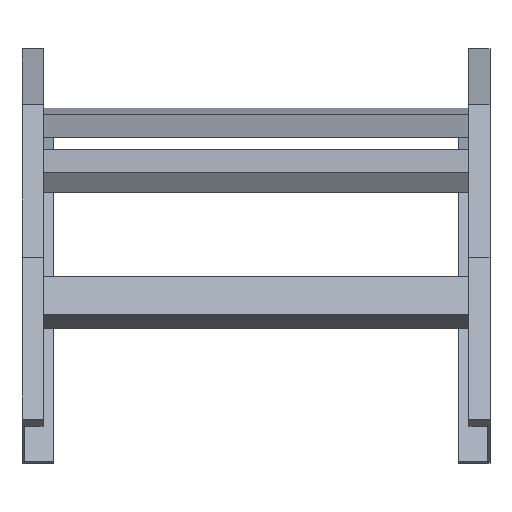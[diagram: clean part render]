
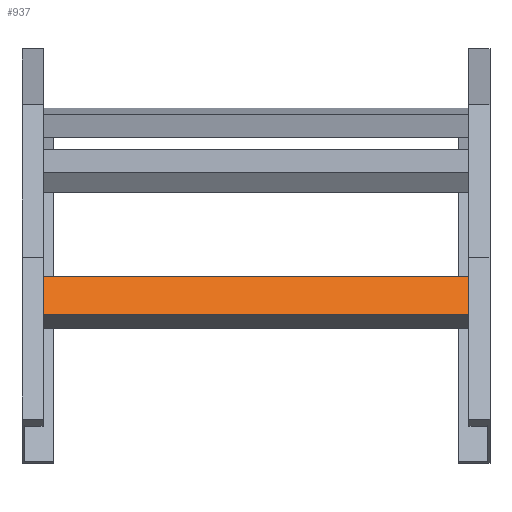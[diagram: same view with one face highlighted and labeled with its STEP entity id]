
A CAD part, top view. The second image highlights one B-rep face of the part: STEP entity #937.
In plain terms, the highlighted planar face has unit normal (0, 0.609, 0.793) as drawn and (0, 1, 0) by its records, which use the part's own axes.
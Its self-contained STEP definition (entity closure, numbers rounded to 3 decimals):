
#40 = ORIENTED_EDGE ( 'NONE', *, *, #178, .F. ) ;
#44 = LINE ( 'NONE', #972, #311 ) ;
#97 = PLANE ( 'NONE',  #455 ) ;
#104 = CARTESIAN_POINT ( 'NONE',  ( 198., 20., 20.25 ) ) ;
#108 = EDGE_CURVE ( 'NONE', #1688, #1219, #537, .T. ) ;
#127 = VERTEX_POINT ( 'NONE', #1204 ) ;
#178 = EDGE_CURVE ( 'NONE', #596, #127, #364, .T. ) ;
#193 = LINE ( 'NONE', #230, #759 ) ;
#200 = VECTOR ( 'NONE', #1123, 1000. ) ;
#230 = CARTESIAN_POINT ( 'NONE',  ( 198., 20., -20.25 ) ) ;
#243 = CARTESIAN_POINT ( 'NONE',  ( 198., 20., 20.25 ) ) ;
#311 = VECTOR ( 'NONE', #574, 1000. ) ;
#364 = LINE ( 'NONE', #104, #200 ) ;
#417 = ORIENTED_EDGE ( 'NONE', *, *, #1070, .F. ) ;
#455 = AXIS2_PLACEMENT_3D ( 'NONE', #243, #889, #735 ) ;
#500 = FACE_OUTER_BOUND ( 'NONE', #818, .T. ) ;
#537 = LINE ( 'NONE', #1570, #1558 ) ;
#551 = EDGE_CURVE ( 'NONE', #596, #1688, #193, .T. ) ;
#574 = DIRECTION ( 'NONE',  ( -1., 0., 0. ) ) ;
#596 = VERTEX_POINT ( 'NONE', #784 ) ;
#623 = DIRECTION ( 'NONE',  ( -1., 0., 0. ) ) ;
#735 = DIRECTION ( 'NONE',  ( 0., 0., -1. ) ) ;
#759 = VECTOR ( 'NONE', #623, 1000. ) ;
#784 = CARTESIAN_POINT ( 'NONE',  ( 198., 20., -20.25 ) ) ;
#818 = EDGE_LOOP ( 'NONE', ( #869, #417, #40, #1483 ) ) ;
#869 = ORIENTED_EDGE ( 'NONE', *, *, #108, .T. ) ;
#889 = DIRECTION ( 'NONE',  ( 0., -1., 0. ) ) ;
#924 = DIRECTION ( 'NONE',  ( 0., 0., 1. ) ) ;
#937 = ADVANCED_FACE ( 'NONE', ( #500 ), #97, .F. ) ;
#972 = CARTESIAN_POINT ( 'NONE',  ( 198., 20., 20.25 ) ) ;
#1070 = EDGE_CURVE ( 'NONE', #127, #1219, #44, .T. ) ;
#1123 = DIRECTION ( 'NONE',  ( 0., 0., 1. ) ) ;
#1204 = CARTESIAN_POINT ( 'NONE',  ( 198., 20., 20.25 ) ) ;
#1219 = VERTEX_POINT ( 'NONE', #1263 ) ;
#1263 = CARTESIAN_POINT ( 'NONE',  ( -198., 20., 20.25 ) ) ;
#1483 = ORIENTED_EDGE ( 'NONE', *, *, #551, .T. ) ;
#1558 = VECTOR ( 'NONE', #924, 1000. ) ;
#1570 = CARTESIAN_POINT ( 'NONE',  ( -198., 20., 20.25 ) ) ;
#1580 = CARTESIAN_POINT ( 'NONE',  ( -198., 20., -20.25 ) ) ;
#1688 = VERTEX_POINT ( 'NONE', #1580 ) ;
